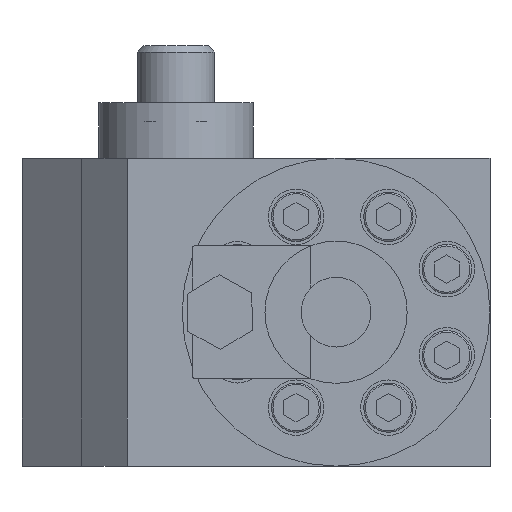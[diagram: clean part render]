
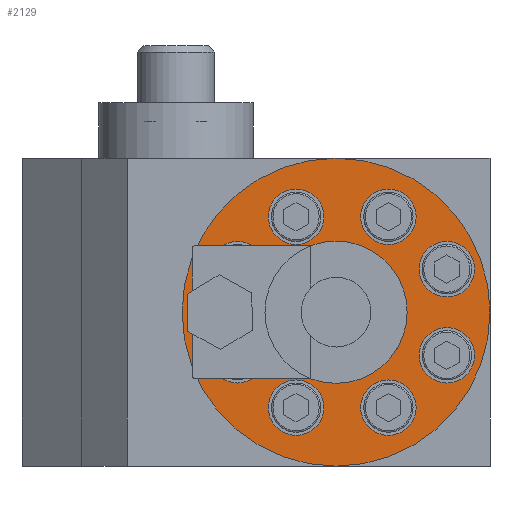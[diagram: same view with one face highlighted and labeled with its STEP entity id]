
A CAD part, left-side view. The second image highlights one B-rep face of the part: STEP entity #2129.
In plain terms, the highlighted planar face has unit normal (-1, 0, 0).
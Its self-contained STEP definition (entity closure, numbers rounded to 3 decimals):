
#773=PLANE('',#13550);
#1416=FACE_BOUND('',#3831,.T.);
#1417=FACE_BOUND('',#3832,.T.);
#1418=FACE_BOUND('',#3833,.T.);
#1419=FACE_BOUND('',#3834,.T.);
#1420=FACE_BOUND('',#3835,.T.);
#1421=FACE_BOUND('',#3836,.T.);
#1422=FACE_BOUND('',#3837,.T.);
#1423=FACE_BOUND('',#3838,.T.);
#1424=FACE_BOUND('',#3839,.T.);
#2129=ADVANCED_FACE('',(#1416,#1417,#1418,#1419,#1420,#1421,#1422,#1423,
#1424),#773,.F.);
#3831=EDGE_LOOP('',(#6535));
#3832=EDGE_LOOP('',(#6536));
#3833=EDGE_LOOP('',(#6537));
#3834=EDGE_LOOP('',(#6538));
#3835=EDGE_LOOP('',(#6539));
#3836=EDGE_LOOP('',(#6540));
#3837=EDGE_LOOP('',(#6541));
#3838=EDGE_LOOP('',(#6542));
#3839=EDGE_LOOP('',(#6543));
#5008=CIRCLE('',#13539,50.);
#5010=CIRCLE('',#13542,9.);
#5011=CIRCLE('',#13543,9.);
#5012=CIRCLE('',#13544,9.);
#5013=CIRCLE('',#13545,9.);
#5014=CIRCLE('',#13546,9.);
#5015=CIRCLE('',#13547,9.);
#5016=CIRCLE('',#13548,9.);
#5017=CIRCLE('',#13549,9.);
#6535=ORIENTED_EDGE('',*,*,#10277,.T.);
#6536=ORIENTED_EDGE('',*,*,#10278,.T.);
#6537=ORIENTED_EDGE('',*,*,#10279,.T.);
#6538=ORIENTED_EDGE('',*,*,#10280,.T.);
#6539=ORIENTED_EDGE('',*,*,#10281,.T.);
#6540=ORIENTED_EDGE('',*,*,#10282,.T.);
#6541=ORIENTED_EDGE('',*,*,#10283,.T.);
#6542=ORIENTED_EDGE('',*,*,#10284,.T.);
#6543=ORIENTED_EDGE('',*,*,#10275,.F.);
#8936=VERTEX_POINT('',#36519);
#8938=VERTEX_POINT('',#36524);
#8939=VERTEX_POINT('',#36526);
#8940=VERTEX_POINT('',#36528);
#8941=VERTEX_POINT('',#36530);
#8942=VERTEX_POINT('',#36532);
#8943=VERTEX_POINT('',#36534);
#8944=VERTEX_POINT('',#36536);
#8945=VERTEX_POINT('',#36538);
#10275=EDGE_CURVE('',#8936,#8936,#5008,.T.);
#10277=EDGE_CURVE('',#8938,#8938,#5010,.T.);
#10278=EDGE_CURVE('',#8939,#8939,#5011,.T.);
#10279=EDGE_CURVE('',#8940,#8940,#5012,.T.);
#10280=EDGE_CURVE('',#8941,#8941,#5013,.T.);
#10281=EDGE_CURVE('',#8942,#8942,#5014,.T.);
#10282=EDGE_CURVE('',#8943,#8943,#5015,.T.);
#10283=EDGE_CURVE('',#8944,#8944,#5016,.T.);
#10284=EDGE_CURVE('',#8945,#8945,#5017,.T.);
#13539=AXIS2_PLACEMENT_3D('',#36518,#15732,#15733);
#13542=AXIS2_PLACEMENT_3D('',#36523,#15738,#15739);
#13543=AXIS2_PLACEMENT_3D('',#36525,#15740,#15741);
#13544=AXIS2_PLACEMENT_3D('',#36527,#15742,#15743);
#13545=AXIS2_PLACEMENT_3D('',#36529,#15744,#15745);
#13546=AXIS2_PLACEMENT_3D('',#36531,#15746,#15747);
#13547=AXIS2_PLACEMENT_3D('',#36533,#15748,#15749);
#13548=AXIS2_PLACEMENT_3D('',#36535,#15750,#15751);
#13549=AXIS2_PLACEMENT_3D('',#36537,#15752,#15753);
#13550=AXIS2_PLACEMENT_3D('',#36539,#15754,#15755);
#15732=DIRECTION('',(1.,0.,0.));
#15733=DIRECTION('',(0.,0.,-1.));
#15738=DIRECTION('',(1.,0.,0.));
#15739=DIRECTION('',(0.,0.,-1.));
#15740=DIRECTION('',(1.,0.,0.));
#15741=DIRECTION('',(0.,0.,-1.));
#15742=DIRECTION('',(1.,0.,0.));
#15743=DIRECTION('',(0.,0.,-1.));
#15744=DIRECTION('',(1.,0.,0.));
#15745=DIRECTION('',(0.,0.,-1.));
#15746=DIRECTION('',(1.,0.,0.));
#15747=DIRECTION('',(0.,0.,-1.));
#15748=DIRECTION('',(1.,0.,0.));
#15749=DIRECTION('',(0.,0.,-1.));
#15750=DIRECTION('',(1.,0.,0.));
#15751=DIRECTION('',(0.,0.,-1.));
#15752=DIRECTION('',(1.,0.,0.));
#15753=DIRECTION('',(0.,0.,-1.));
#15754=DIRECTION('',(1.,0.,0.));
#15755=DIRECTION('',(0.,1.,0.));
#36518=CARTESIAN_POINT('',(-115.529,-22.705,50.));
#36519=CARTESIAN_POINT('',(-115.529,-22.705,0.));
#36523=CARTESIAN_POINT('',(-115.529,-9.705,81.));
#36524=CARTESIAN_POINT('',(-115.529,-9.705,72.));
#36525=CARTESIAN_POINT('',(-115.529,-9.705,19.));
#36526=CARTESIAN_POINT('',(-115.529,-9.705,10.));
#36527=CARTESIAN_POINT('',(-115.529,-39.705,19.));
#36528=CARTESIAN_POINT('',(-115.529,-39.705,10.));
#36529=CARTESIAN_POINT('',(-115.529,-39.705,81.));
#36530=CARTESIAN_POINT('',(-115.529,-39.705,72.));
#36531=CARTESIAN_POINT('',(-115.529,9.295,64.));
#36532=CARTESIAN_POINT('',(-115.529,9.295,55.));
#36533=CARTESIAN_POINT('',(-115.529,9.295,36.));
#36534=CARTESIAN_POINT('',(-115.529,9.295,27.));
#36535=CARTESIAN_POINT('',(-115.529,-58.705,36.));
#36536=CARTESIAN_POINT('',(-115.529,-58.705,27.));
#36537=CARTESIAN_POINT('',(-115.529,-58.705,64.));
#36538=CARTESIAN_POINT('',(-115.529,-58.705,55.));
#36539=CARTESIAN_POINT('',(-115.529,-22.705,50.));
